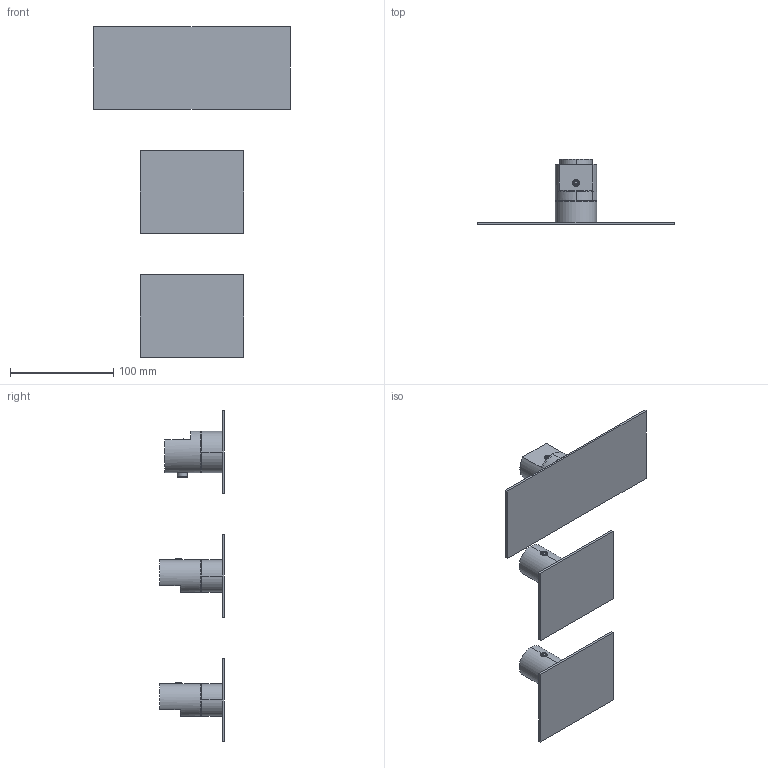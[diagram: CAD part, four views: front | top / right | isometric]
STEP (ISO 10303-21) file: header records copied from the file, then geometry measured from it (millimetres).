
FILE_DESCRIPTION((''),'2;1');
FILE_NAME('89760V221_SW0001','2025-11-24T16:31:52',('carloff'),(''),'CREO PARAMETRIC BY PTC INC, 2022014','CREO PARAMETRIC BY PTC INC, 2022014','');
FILE_SCHEMA(('CONFIG_CONTROL_DESIGN'));
Length unit declared in the file: millimetre
Products named in the file (1): 89760V221_SW0001
Bounding box: 190 x 62.9 x 320 mm (x, y, z)
Volume: 153423.5 mm3; surface area: 106327.7 mm2
Topology: 6 solids, 6 shells, 251 faces, 569 edges, 351 vertices
Faces by surface type: cylinder 99, plane 82, cone 44, torus 20, sphere 6
Entity records: 8012 total; most frequent: CARTESIAN_POINT 2262, DIRECTION 1275, ORIENTED_EDGE 1122, EDGE_CURVE 561, AXIS2_PLACEMENT_3D 521, VERTEX_POINT 351, EDGE_LOOP 284, CIRCLE 270
